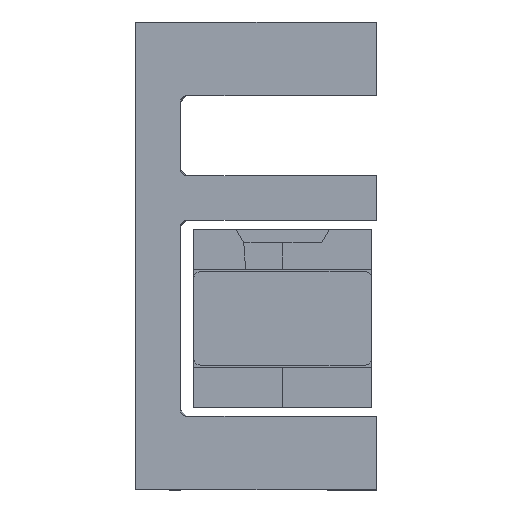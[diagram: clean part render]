
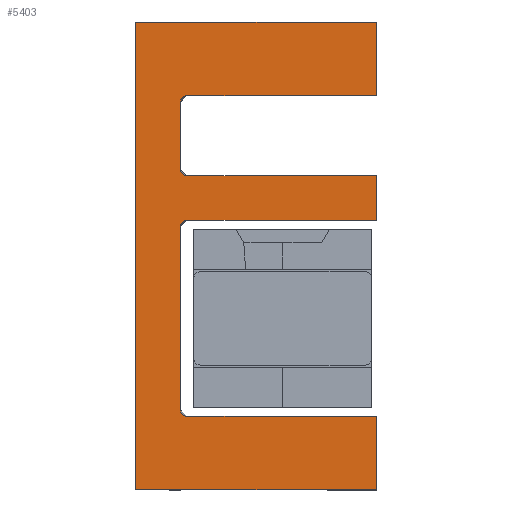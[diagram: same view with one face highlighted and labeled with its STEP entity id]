
A CAD part, front view. The second image highlights one B-rep face of the part: STEP entity #5403.
In plain terms, the highlighted planar face has unit normal (0, -1, 0) as drawn and (0, 0, 1) by its records, which use the part's own axes.
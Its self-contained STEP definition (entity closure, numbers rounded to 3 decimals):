
#19 = VERTEX_POINT ( 'NONE', #3895 ) ;
#27 = CARTESIAN_POINT ( 'NONE',  ( 1.6, 1.9, 2870. ) ) ;
#51 = EDGE_CURVE ( 'NONE', #2482, #5122, #6708, .T. ) ;
#110 = VERTEX_POINT ( 'NONE', #5269 ) ;
#121 = LINE ( 'NONE', #5938, #203 ) ;
#144 = CARTESIAN_POINT ( 'NONE',  ( 20.8, 12.4, 2870. ) ) ;
#203 = VECTOR ( 'NONE', #5515, 1000. ) ;
#205 = ORIENTED_EDGE ( 'NONE', *, *, #4362, .T. ) ;
#255 = VECTOR ( 'NONE', #3256, 1000. ) ;
#358 = CARTESIAN_POINT ( 'NONE',  ( 16., 10.4, 2870. ) ) ;
#359 = DIRECTION ( 'NONE',  ( 0., 1., 0. ) ) ;
#416 = CARTESIAN_POINT ( 'NONE',  ( 16., 10.1, 2870. ) ) ;
#421 = VERTEX_POINT ( 'NONE', #416 ) ;
#472 = CARTESIAN_POINT ( 'NONE',  ( 12.4, 1.6, 2870. ) ) ;
#554 = ORIENTED_EDGE ( 'NONE', *, *, #3234, .F. ) ;
#671 = CARTESIAN_POINT ( 'NONE',  ( 16., 1.6, 2870. ) ) ;
#747 = EDGE_CURVE ( 'NONE', #6455, #2482, #3938, .T. ) ;
#782 = VECTOR ( 'NONE', #4337, 1000. ) ;
#807 = DIRECTION ( 'NONE',  ( 0., -1., 0. ) ) ;
#809 = DIRECTION ( 'NONE',  ( 1., 0., 0. ) ) ;
#888 = VECTOR ( 'NONE', #2703, 1000. ) ;
#972 = EDGE_CURVE ( 'NONE', #5780, #4868, #4350, .T. ) ;
#1146 = VERTEX_POINT ( 'NONE', #4216 ) ;
#1160 = DIRECTION ( 'NONE',  ( 1., 0., 0. ) ) ;
#1167 = ORIENTED_EDGE ( 'NONE', *, *, #747, .F. ) ;
#1224 = VECTOR ( 'NONE', #1347, 1000. ) ;
#1225 = VECTOR ( 'NONE', #2993, 1000. ) ;
#1234 = VERTEX_POINT ( 'NONE', #2632 ) ;
#1235 = LINE ( 'NONE', #144, #6645 ) ;
#1347 = DIRECTION ( 'NONE',  ( 0., -1., 0. ) ) ;
#1382 = DIRECTION ( 'NONE',  ( 1., 0., 0. ) ) ;
#1410 = CARTESIAN_POINT ( 'NONE',  ( 12.4, 10.4, 2870. ) ) ;
#1473 = CARTESIAN_POINT ( 'NONE',  ( 20.8, 10.7, 2870. ) ) ;
#1635 = DIRECTION ( 'NONE',  ( 0., 0., 1. ) ) ;
#1664 = CIRCLE ( 'NONE', #5605, 0.3 ) ;
#1697 = LINE ( 'NONE', #2748, #782 ) ;
#1722 = ORIENTED_EDGE ( 'NONE', *, *, #3160, .F. ) ;
#1795 = VERTEX_POINT ( 'NONE', #5902 ) ;
#1880 = ORIENTED_EDGE ( 'NONE', *, *, #6473, .F. ) ;
#2063 = CARTESIAN_POINT ( 'NONE',  ( 22.3, 1.6, 2870. ) ) ;
#2087 = EDGE_CURVE ( 'NONE', #5780, #421, #1697, .T. ) ;
#2170 = LINE ( 'NONE', #27, #4716 ) ;
#2195 = CARTESIAN_POINT ( 'NONE',  ( 22.3, 1.6, 2870. ) ) ;
#2274 = DIRECTION ( 'NONE',  ( -1., 0., 0. ) ) ;
#2303 = VERTEX_POINT ( 'NONE', #4048 ) ;
#2418 = ORIENTED_EDGE ( 'NONE', *, *, #4192, .T. ) ;
#2419 = ORIENTED_EDGE ( 'NONE', *, *, #4717, .F. ) ;
#2429 = CARTESIAN_POINT ( 'NONE',  ( 1.9, 10.4, 2870. ) ) ;
#2439 = ORIENTED_EDGE ( 'NONE', *, *, #4763, .F. ) ;
#2453 = DIRECTION ( 'NONE',  ( 1., 0., 0. ) ) ;
#2455 = VECTOR ( 'NONE', #807, 1000. ) ;
#2464 = DIRECTION ( 'NONE',  ( 1., 0., 0. ) ) ;
#2482 = VERTEX_POINT ( 'NONE', #5892 ) ;
#2580 = CARTESIAN_POINT ( 'NONE',  ( 1.9, 10.4, 2870. ) ) ;
#2632 = CARTESIAN_POINT ( 'NONE',  ( -1.7, 12.4, 2870. ) ) ;
#2634 = DIRECTION ( 'NONE',  ( 1., 0., 0. ) ) ;
#2692 = ORIENTED_EDGE ( 'NONE', *, *, #6115, .T. ) ;
#2703 = DIRECTION ( 'NONE',  ( 0., 1., 0. ) ) ;
#2748 = CARTESIAN_POINT ( 'NONE',  ( 16., 9.7, 2870. ) ) ;
#2786 = ORIENTED_EDGE ( 'NONE', *, *, #51, .F. ) ;
#2807 = VERTEX_POINT ( 'NONE', #4151 ) ;
#2839 = EDGE_CURVE ( 'NONE', #2303, #19, #3473, .T. ) ;
#2894 = CARTESIAN_POINT ( 'NONE',  ( 19.3, 1.6, 2870. ) ) ;
#2949 = ORIENTED_EDGE ( 'NONE', *, *, #5710, .T. ) ;
#2956 = CARTESIAN_POINT ( 'NONE',  ( 19.3, 10.4, 2870. ) ) ;
#2993 = DIRECTION ( 'NONE',  ( -1., 0., 0. ) ) ;
#3079 = VERTEX_POINT ( 'NONE', #6750 ) ;
#3155 = AXIS2_PLACEMENT_3D ( 'NONE', #1473, #1635, #4885 ) ;
#3160 = EDGE_CURVE ( 'NONE', #5122, #3079, #6411, .T. ) ;
#3171 = VERTEX_POINT ( 'NONE', #6664 ) ;
#3195 = ORIENTED_EDGE ( 'NONE', *, *, #972, .T. ) ;
#3222 = CARTESIAN_POINT ( 'NONE',  ( -1.7, 10.4, 2870. ) ) ;
#3234 = EDGE_CURVE ( 'NONE', #110, #4868, #6740, .T. ) ;
#3248 = CIRCLE ( 'NONE', #6515, 0.3 ) ;
#3256 = DIRECTION ( 'NONE',  ( 1., 0., 0. ) ) ;
#3345 = AXIS2_PLACEMENT_3D ( 'NONE', #3438, #6242, #2464 ) ;
#3438 = CARTESIAN_POINT ( 'NONE',  ( 1.9, 10.1, 2870. ) ) ;
#3473 = LINE ( 'NONE', #358, #4497 ) ;
#3549 = LINE ( 'NONE', #1410, #2455 ) ;
#3608 = ORIENTED_EDGE ( 'NONE', *, *, #2839, .T. ) ;
#3647 = ORIENTED_EDGE ( 'NONE', *, *, #6697, .T. ) ;
#3895 = CARTESIAN_POINT ( 'NONE',  ( 15.7, 10.4, 2870. ) ) ;
#3923 = CARTESIAN_POINT ( 'NONE',  ( 15.7, 10.1, 2870. ) ) ;
#3938 = CIRCLE ( 'NONE', #5425, 0.3 ) ;
#4043 = CARTESIAN_POINT ( 'NONE',  ( 12.7, 10.1, 2870. ) ) ;
#4048 = CARTESIAN_POINT ( 'NONE',  ( 12.7, 10.4, 2870. ) ) ;
#4076 = CARTESIAN_POINT ( 'NONE',  ( 10.4, 10.1, 2870. ) ) ;
#4151 = CARTESIAN_POINT ( 'NONE',  ( 12.4, 10.1, 2870. ) ) ;
#4192 = EDGE_CURVE ( 'NONE', #1795, #6639, #5977, .T. ) ;
#4216 = CARTESIAN_POINT ( 'NONE',  ( -1.7, 1.6, 2870. ) ) ;
#4337 = DIRECTION ( 'NONE',  ( 0., 1., 0. ) ) ;
#4350 = LINE ( 'NONE', #2195, #255 ) ;
#4362 = EDGE_CURVE ( 'NONE', #19, #421, #1664, .T. ) ;
#4389 = DIRECTION ( 'NONE',  ( 0., -1., 0. ) ) ;
#4497 = VECTOR ( 'NONE', #809, 1000. ) ;
#4542 = LINE ( 'NONE', #4076, #4855 ) ;
#4716 = VECTOR ( 'NONE', #4389, 1000. ) ;
#4717 = EDGE_CURVE ( 'NONE', #3079, #3171, #2170, .T. ) ;
#4763 = EDGE_CURVE ( 'NONE', #1146, #1234, #6985, .T. ) ;
#4855 = VECTOR ( 'NONE', #359, 1000. ) ;
#4868 = VERTEX_POINT ( 'NONE', #2894 ) ;
#4885 = DIRECTION ( 'NONE',  ( 1., 0., 0. ) ) ;
#5122 = VERTEX_POINT ( 'NONE', #2580 ) ;
#5203 = EDGE_CURVE ( 'NONE', #1795, #6455, #4542, .T. ) ;
#5269 = CARTESIAN_POINT ( 'NONE',  ( 19.3, 12.4, 2870. ) ) ;
#5270 = ORIENTED_EDGE ( 'NONE', *, *, #2087, .F. ) ;
#5403 = ADVANCED_FACE ( 'NONE', ( #5724 ), #6293, .T. ) ;
#5425 = AXIS2_PLACEMENT_3D ( 'NONE', #6657, #5676, #2453 ) ;
#5515 = DIRECTION ( 'NONE',  ( 1., 0., 0. ) ) ;
#5605 = AXIS2_PLACEMENT_3D ( 'NONE', #3923, #6879, #2634 ) ;
#5639 = ORIENTED_EDGE ( 'NONE', *, *, #5203, .F. ) ;
#5676 = DIRECTION ( 'NONE',  ( 0., 0., 1. ) ) ;
#5710 = EDGE_CURVE ( 'NONE', #110, #1234, #1235, .T. ) ;
#5724 = FACE_OUTER_BOUND ( 'NONE', #6744, .T. ) ;
#5780 = VERTEX_POINT ( 'NONE', #671 ) ;
#5892 = CARTESIAN_POINT ( 'NONE',  ( 10.1, 10.4, 2870. ) ) ;
#5902 = CARTESIAN_POINT ( 'NONE',  ( 10.4, 1.6, 2870. ) ) ;
#5938 = CARTESIAN_POINT ( 'NONE',  ( 22.3, 1.6, 2870. ) ) ;
#5977 = LINE ( 'NONE', #2063, #6915 ) ;
#6115 = EDGE_CURVE ( 'NONE', #2807, #2303, #3248, .T. ) ;
#6205 = DIRECTION ( 'NONE',  ( 0., 0., -1. ) ) ;
#6242 = DIRECTION ( 'NONE',  ( 0., 0., 1. ) ) ;
#6293 = PLANE ( 'NONE',  #3155 ) ;
#6308 = CARTESIAN_POINT ( 'NONE',  ( 10.4, 10.1, 2870. ) ) ;
#6411 = CIRCLE ( 'NONE', #3345, 0.3 ) ;
#6455 = VERTEX_POINT ( 'NONE', #6308 ) ;
#6473 = EDGE_CURVE ( 'NONE', #2807, #6639, #3549, .T. ) ;
#6515 = AXIS2_PLACEMENT_3D ( 'NONE', #4043, #6205, #1382 ) ;
#6639 = VERTEX_POINT ( 'NONE', #472 ) ;
#6645 = VECTOR ( 'NONE', #2274, 1000. ) ;
#6657 = CARTESIAN_POINT ( 'NONE',  ( 10.1, 10.1, 2870. ) ) ;
#6664 = CARTESIAN_POINT ( 'NONE',  ( 1.6, 1.6, 2870. ) ) ;
#6697 = EDGE_CURVE ( 'NONE', #1146, #3171, #121, .T. ) ;
#6708 = LINE ( 'NONE', #2429, #1225 ) ;
#6740 = LINE ( 'NONE', #2956, #1224 ) ;
#6744 = EDGE_LOOP ( 'NONE', ( #554, #2949, #2439, #3647, #2419, #1722, #2786, #1167, #5639, #2418, #1880, #2692, #3608, #205, #5270, #3195 ) ) ;
#6750 = CARTESIAN_POINT ( 'NONE',  ( 1.6, 10.1, 2870. ) ) ;
#6879 = DIRECTION ( 'NONE',  ( 0., 0., -1. ) ) ;
#6915 = VECTOR ( 'NONE', #1160, 1000. ) ;
#6985 = LINE ( 'NONE', #3222, #888 ) ;
